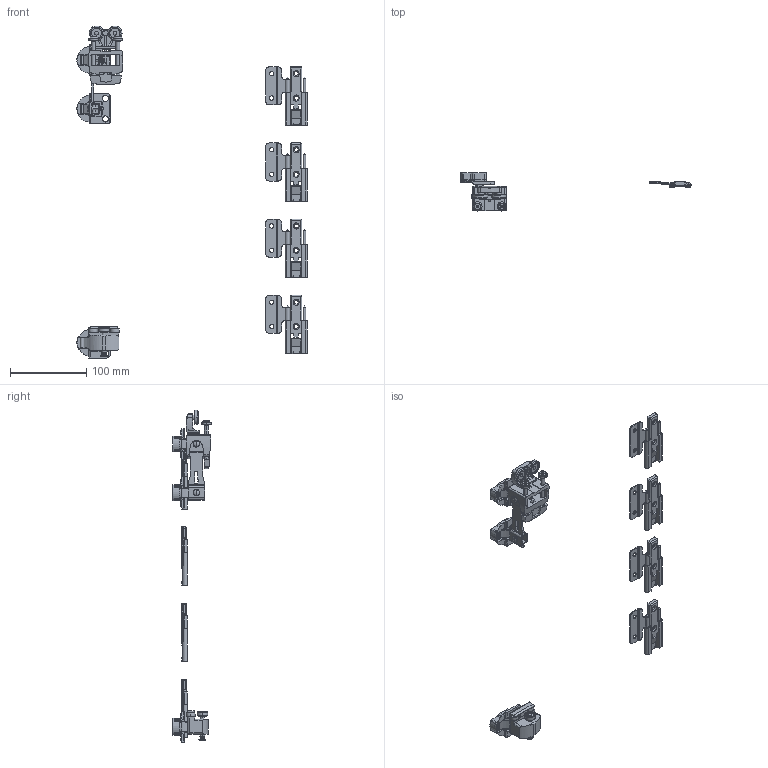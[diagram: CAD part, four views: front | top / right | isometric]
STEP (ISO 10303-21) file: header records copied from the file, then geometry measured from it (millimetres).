
FILE_DESCRIPTION( ( '' ), '1' );
FILE_NAME( 'C:/Documents and Settings/Sachin/Desktop/70968_close.stp', '2014-05-19T12:03:28', ( '' ), ( '' ), ' ', ' ', ' ' );
FILE_SCHEMA( ( 'CONFIG_CONTROL_DESIGN' ) );
Length unit declared in the file: millimetre
Products named in the file (10): 1; 2; 3; 4; 5; 6; 7; 8; 9; 10
Bounding box: 302.36 x 49.98 x 435.95 mm (x, y, z)
Volume: 117618.8 mm3; surface area: 87345 mm2
Topology: 10 solids, 10 shells, 1598 faces, 4631 edges, 3036 vertices
Faces by surface type: plane 929, cylinder 559, cone 64, torus 44, sphere 2
Entity records: 54602 total; most frequent: CARTESIAN_POINT 10685, ORIENTED_EDGE 9254, DIRECTION 9113, EDGE_CURVE 4627, LINE 3107, VECTOR 3107, VERTEX_POINT 3036, AXIS2_PLACEMENT_3D 3003
